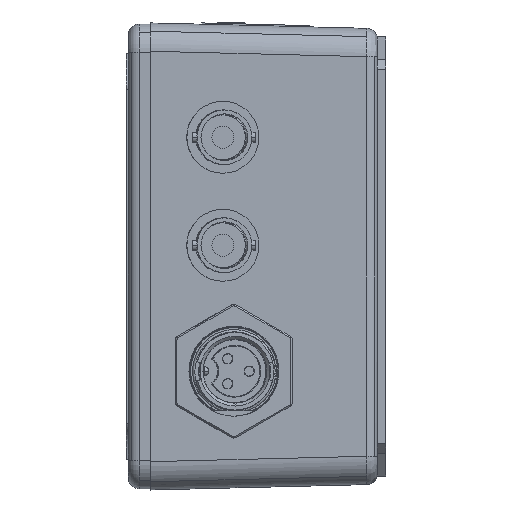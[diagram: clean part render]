
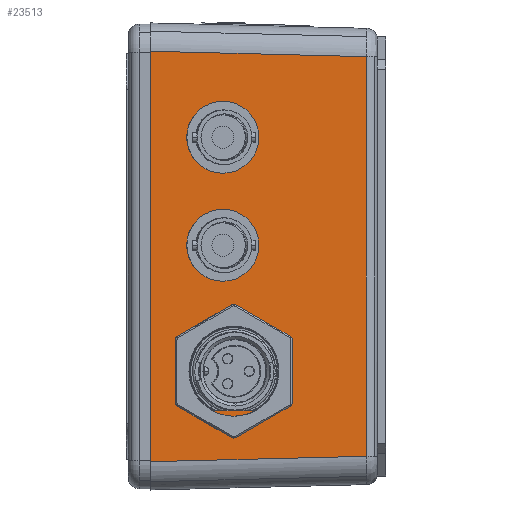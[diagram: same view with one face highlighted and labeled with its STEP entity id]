
A CAD part, left-side view. The second image highlights one B-rep face of the part: STEP entity #23513.
In plain terms, the highlighted planar face has unit normal (-1, -0.025, 0) as drawn and (-1, 0, -0.025) by its records, which use the part's own axes.
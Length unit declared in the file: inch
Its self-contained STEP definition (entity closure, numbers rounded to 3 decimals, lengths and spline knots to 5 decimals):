
#25 = CARTESIAN_POINT ( 'NONE',  ( -2.16085, 0.79705, -0.57482 ) ) ;
#475 = ORIENTED_EDGE ( 'NONE', *, *, #40930, .T. ) ;
#1070 = PLANE ( 'NONE',  #10270 ) ;
#1374 = FACE_OUTER_BOUND ( 'NONE', #7181, .T. ) ;
#1562 = VECTOR ( 'NONE', #32551, 39.37008 ) ;
#2064 = LINE ( 'NONE', #9652, #37250 ) ;
#2131 = ORIENTED_EDGE ( 'NONE', *, *, #3672, .T. ) ;
#2515 = AXIS2_PLACEMENT_3D ( 'NONE', #28300, #7897, #31726 ) ;
#2601 = LINE ( 'NONE', #5294, #1562 ) ;
#2922 = EDGE_CURVE ( 'NONE', #21362, #35357, #19447, .T. ) ;
#3415 = DIRECTION ( 'NONE',  ( -0.025, 0., 1. ) ) ;
#3672 = EDGE_CURVE ( 'NONE', #27336, #22415, #25283, .T. ) ;
#3874 = CARTESIAN_POINT ( 'NONE',  ( -2.1378, -1.38786, -1.49803 ) ) ;
#4220 = CARTESIAN_POINT ( 'NONE',  ( -2.16749, -0.93414, -0.30865 ) ) ;
#4470 = DIRECTION ( 'NONE',  ( -0.025, 0., 1. ) ) ;
#4789 = DIRECTION ( 'NONE',  ( -1., 0., -0.025 ) ) ;
#4981 = CARTESIAN_POINT ( 'NONE',  ( -2.16442, 1.07205, -0.43177 ) ) ;
#5250 = CARTESIAN_POINT ( 'NONE',  ( -2.16858, 0.79705, -0.26492 ) ) ;
#5294 = CARTESIAN_POINT ( 'NONE',  ( -2.1752, -1.62205, 0. ) ) ;
#5580 = EDGE_LOOP ( 'NONE', ( #16967, #40292, #24309, #24884 ) ) ;
#5609 = EDGE_CURVE ( 'NONE', #8348, #27125, #9154, .T. ) ;
#5749 = AXIS2_PLACEMENT_3D ( 'NONE', #17105, #40904, #20544 ) ;
#5786 = EDGE_CURVE ( 'NONE', #11698, #32148, #37908, .T. ) ;
#6603 = FACE_BOUND ( 'NONE', #7854, .T. ) ;
#7010 = VERTEX_POINT ( 'NONE', #24152 ) ;
#7181 = EDGE_LOOP ( 'NONE', ( #35845, #43641, #38529, #23814 ) ) ;
#7854 = EDGE_LOOP ( 'NONE', ( #18464, #475 ) ) ;
#7897 = DIRECTION ( 'NONE',  ( -1., 0., -0.025 ) ) ;
#8095 = DIRECTION ( 'NONE',  ( 0., -1., 0. ) ) ;
#8348 = VERTEX_POINT ( 'NONE', #29037 ) ;
#9154 = LINE ( 'NONE', #18703, #27308 ) ;
#9652 = CARTESIAN_POINT ( 'NONE',  ( -2.17481, -1.42488, -0.01531 ) ) ;
#9805 = CARTESIAN_POINT ( 'NONE',  ( -2.16442, 1.07205, -0.43177 ) ) ;
#10270 = AXIS2_PLACEMENT_3D ( 'NONE', #21193, #24903, #4470 ) ;
#10392 = VECTOR ( 'NONE', #28039, 39.37008 ) ;
#10454 = CARTESIAN_POINT ( 'NONE',  ( -2.1752, 1.42526, 0. ) ) ;
#10455 = FACE_BOUND ( 'NONE', #37044, .T. ) ;
#10698 = CARTESIAN_POINT ( 'NONE',  ( -2.16749, -0.18414, -0.30865 ) ) ;
#10913 = LINE ( 'NONE', #34415, #34865 ) ;
#11308 = EDGE_CURVE ( 'NONE', #7010, #21362, #20081, .T. ) ;
#11698 = VERTEX_POINT ( 'NONE', #23273 ) ;
#13240 = DIRECTION ( 'NONE',  ( 0.025, 0., -1. ) ) ;
#14115 = CARTESIAN_POINT ( 'NONE',  ( -2.15728, 1.07205, -0.71787 ) ) ;
#16758 = CARTESIAN_POINT ( 'NONE',  ( -2.16272, -0.82795, -0.49984 ) ) ;
#16967 = ORIENTED_EDGE ( 'NONE', *, *, #35857, .F. ) ;
#17014 = CIRCLE ( 'NONE', #5749, 0.21875 ) ;
#17105 = CARTESIAN_POINT ( 'NONE',  ( -2.16272, -0.07795, -0.49984 ) ) ;
#18464 = ORIENTED_EDGE ( 'NONE', *, *, #5786, .F. ) ;
#18703 = CARTESIAN_POINT ( 'NONE',  ( -2.17414, 1.4242, -0.04243 ) ) ;
#19224 = ORIENTED_EDGE ( 'NONE', *, *, #36599, .F. ) ;
#19436 = LINE ( 'NONE', #24632, #10392 ) ;
#19447 = CIRCLE ( 'NONE', #2515, 0.31 ) ;
#20081 = CIRCLE ( 'NONE', #22806, 0.31 ) ;
#20211 = DIRECTION ( 'NONE',  ( -0.025, 0., 1. ) ) ;
#20544 = DIRECTION ( 'NONE',  ( -0.025, 0., 1. ) ) ;
#21193 = CARTESIAN_POINT ( 'NONE',  ( -2.1752, 0., 0. ) ) ;
#21294 = LINE ( 'NONE', #9805, #38303 ) ;
#21362 = VERTEX_POINT ( 'NONE', #5250 ) ;
#22415 = VERTEX_POINT ( 'NONE', #10698 ) ;
#22806 = AXIS2_PLACEMENT_3D ( 'NONE', #25, #23872, #3415 ) ;
#23273 = CARTESIAN_POINT ( 'NONE',  ( -2.16749, -0.72177, -0.30865 ) ) ;
#23513 = ADVANCED_FACE ( 'NONE', ( #31047, #10455, #1374, #6603 ), #1070, .T. ) ;
#23814 = ORIENTED_EDGE ( 'NONE', *, *, #29778, .T. ) ;
#23872 = DIRECTION ( 'NONE',  ( -1., 0., -0.025 ) ) ;
#24152 = CARTESIAN_POINT ( 'NONE',  ( -2.15311, 0.79705, -0.88472 ) ) ;
#24309 = ORIENTED_EDGE ( 'NONE', *, *, #2922, .F. ) ;
#24550 = CIRCLE ( 'NONE', #26828, 0.31 ) ;
#24632 = CARTESIAN_POINT ( 'NONE',  ( -2.16749, -0.72177, -0.30865 ) ) ;
#24884 = ORIENTED_EDGE ( 'NONE', *, *, #11308, .F. ) ;
#24903 = DIRECTION ( 'NONE',  ( -1., 0., -0.025 ) ) ;
#25087 = CARTESIAN_POINT ( 'NONE',  ( -2.16749, 0.02823, -0.30865 ) ) ;
#25227 = CARTESIAN_POINT ( 'NONE',  ( -2.16085, 0.79705, -0.57482 ) ) ;
#25283 = LINE ( 'NONE', #25087, #32201 ) ;
#26828 = AXIS2_PLACEMENT_3D ( 'NONE', #25227, #4789, #28635 ) ;
#27123 = VERTEX_POINT ( 'NONE', #3874 ) ;
#27125 = VERTEX_POINT ( 'NONE', #10454 ) ;
#27308 = VECTOR ( 'NONE', #39075, 39.37008 ) ;
#27336 = VERTEX_POINT ( 'NONE', #36020 ) ;
#28039 = DIRECTION ( 'NONE',  ( 0., -1., 0. ) ) ;
#28300 = CARTESIAN_POINT ( 'NONE',  ( -2.16085, 0.79705, -0.57482 ) ) ;
#28635 = DIRECTION ( 'NONE',  ( -0.025, 0., 1. ) ) ;
#28939 = AXIS2_PLACEMENT_3D ( 'NONE', #16758, #40562, #20211 ) ;
#29037 = CARTESIAN_POINT ( 'NONE',  ( -2.1378, 1.38786, -1.49803 ) ) ;
#29778 = EDGE_CURVE ( 'NONE', #30156, #27125, #2601, .T. ) ;
#30156 = VERTEX_POINT ( 'NONE', #34476 ) ;
#30220 = DIRECTION ( 'NONE',  ( 0.025, 0.025, -0.999 ) ) ;
#31015 = DIRECTION ( 'NONE',  ( 0., 1., 0. ) ) ;
#31047 = FACE_BOUND ( 'NONE', #5580, .T. ) ;
#31726 = DIRECTION ( 'NONE',  ( -0.025, 0., 1. ) ) ;
#32148 = VERTEX_POINT ( 'NONE', #4220 ) ;
#32201 = VECTOR ( 'NONE', #8095, 39.37008 ) ;
#32551 = DIRECTION ( 'NONE',  ( 0., 1., 0. ) ) ;
#34415 = CARTESIAN_POINT ( 'NONE',  ( -2.1378, 0., -1.49803 ) ) ;
#34476 = CARTESIAN_POINT ( 'NONE',  ( -2.1752, -1.42526, 0. ) ) ;
#34865 = VECTOR ( 'NONE', #31015, 39.37008 ) ;
#35357 = VERTEX_POINT ( 'NONE', #4981 ) ;
#35845 = ORIENTED_EDGE ( 'NONE', *, *, #5609, .F. ) ;
#35857 = EDGE_CURVE ( 'NONE', #37159, #7010, #24550, .T. ) ;
#36020 = CARTESIAN_POINT ( 'NONE',  ( -2.16749, 0.02823, -0.30865 ) ) ;
#36531 = EDGE_CURVE ( 'NONE', #30156, #27123, #2064, .T. ) ;
#36533 = EDGE_CURVE ( 'NONE', #35357, #37159, #21294, .T. ) ;
#36599 = EDGE_CURVE ( 'NONE', #27336, #22415, #17014, .T. ) ;
#37044 = EDGE_LOOP ( 'NONE', ( #19224, #2131 ) ) ;
#37159 = VERTEX_POINT ( 'NONE', #14115 ) ;
#37250 = VECTOR ( 'NONE', #30220, 39.37008 ) ;
#37908 = CIRCLE ( 'NONE', #28939, 0.21875 ) ;
#38303 = VECTOR ( 'NONE', #13240, 39.37008 ) ;
#38529 = ORIENTED_EDGE ( 'NONE', *, *, #36531, .F. ) ;
#39075 = DIRECTION ( 'NONE',  ( -0.025, 0.025, 0.999 ) ) ;
#40292 = ORIENTED_EDGE ( 'NONE', *, *, #36533, .F. ) ;
#40562 = DIRECTION ( 'NONE',  ( -1., 0., -0.025 ) ) ;
#40904 = DIRECTION ( 'NONE',  ( -1., 0., -0.025 ) ) ;
#40930 = EDGE_CURVE ( 'NONE', #11698, #32148, #19436, .T. ) ;
#43181 = EDGE_CURVE ( 'NONE', #27123, #8348, #10913, .T. ) ;
#43641 = ORIENTED_EDGE ( 'NONE', *, *, #43181, .F. ) ;
